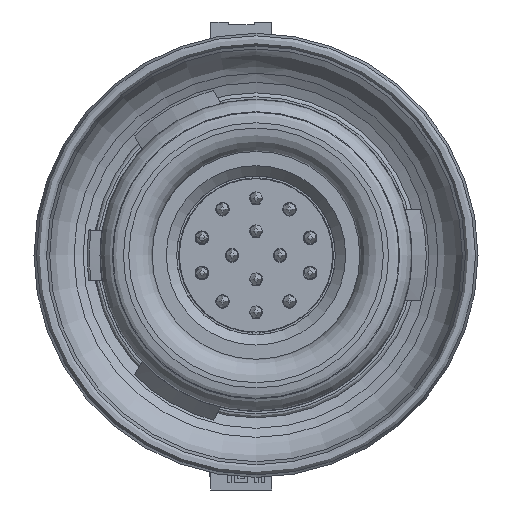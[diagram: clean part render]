
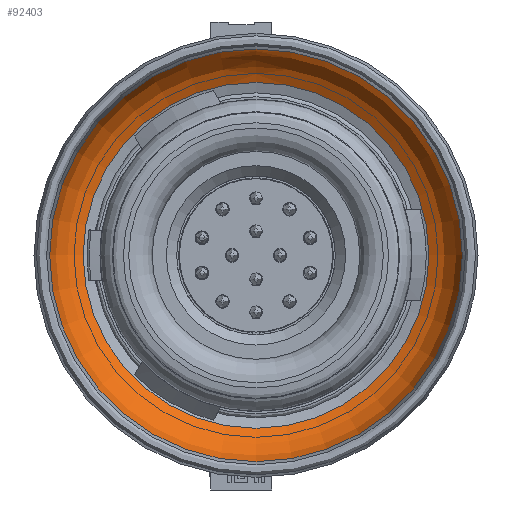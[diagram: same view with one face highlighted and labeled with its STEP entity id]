
A CAD part, left-side view. The second image highlights one B-rep face of the part: STEP entity #92403.
In plain terms, the highlighted toroidal (fillet/blend) face has major radius 5.967 mm and minor radius 2 mm.
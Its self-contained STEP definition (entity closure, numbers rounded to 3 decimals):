
#2332=TOROIDAL_SURFACE('',#99396,5.967,2.);
#12750=FACE_OUTER_BOUND('',#18149,.T.);
#18149=EDGE_LOOP('',(#80331,#80332,#80333,#80334));
#35907=CIRCLE('',#99395,6.651);
#35908=CIRCLE('',#99397,7.936);
#35909=CIRCLE('',#99398,2.);
#43364=VERTEX_POINT('',#217059);
#43365=VERTEX_POINT('',#217063);
#55961=EDGE_CURVE('',#43364,#43364,#35907,.T.);
#55962=EDGE_CURVE('',#43365,#43365,#35908,.T.);
#55963=EDGE_CURVE('',#43365,#43364,#35909,.T.);
#80331=ORIENTED_EDGE('',*,*,#55962,.T.);
#80332=ORIENTED_EDGE('',*,*,#55963,.T.);
#80333=ORIENTED_EDGE('',*,*,#55961,.F.);
#80334=ORIENTED_EDGE('',*,*,#55963,.F.);
#92403=ADVANCED_FACE('',(#12750),#2332,.F.);
#99395=AXIS2_PLACEMENT_3D('',#217061,#116566,#116567);
#99396=AXIS2_PLACEMENT_3D('',#217062,#116568,#116569);
#99397=AXIS2_PLACEMENT_3D('',#217064,#116570,#116571);
#99398=AXIS2_PLACEMENT_3D('',#217065,#116572,#116573);
#116566=DIRECTION('center_axis',(-1.,0.,0.));
#116567=DIRECTION('ref_axis',(0.,0.,-1.));
#116568=DIRECTION('center_axis',(1.,0.,0.));
#116569=DIRECTION('ref_axis',(0.,0.,-1.));
#116570=DIRECTION('center_axis',(-1.,0.,0.));
#116571=DIRECTION('ref_axis',(0.,0.,-1.));
#116572=DIRECTION('center_axis',(0.,1.,0.));
#116573=DIRECTION('ref_axis',(0.,0.,1.));
#217059=CARTESIAN_POINT('',(0.464,0.,6.641));
#217061=CARTESIAN_POINT('Origin',(0.464,0.,-0.01));
#217062=CARTESIAN_POINT('Origin',(-1.416,0.,-0.01));
#217063=CARTESIAN_POINT('',(-1.068,0.,7.926));
#217064=CARTESIAN_POINT('Origin',(-1.068,0.,-0.01));
#217065=CARTESIAN_POINT('Origin',(-1.416,0.,
5.956));
